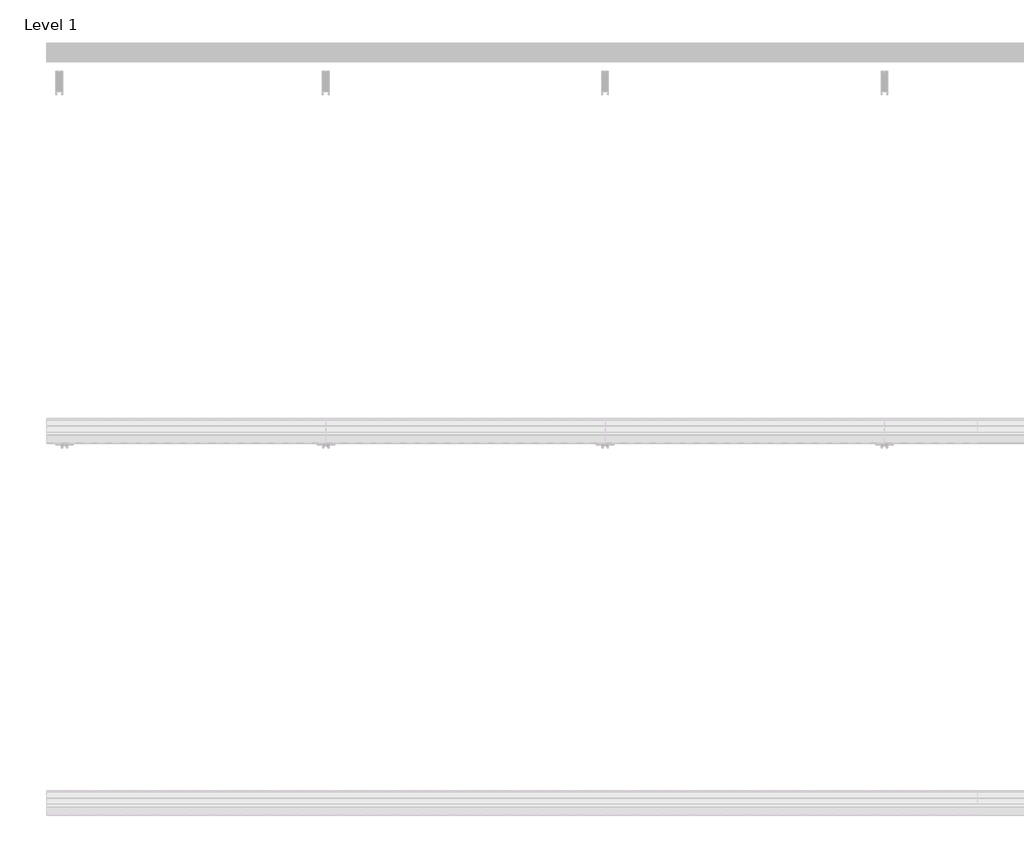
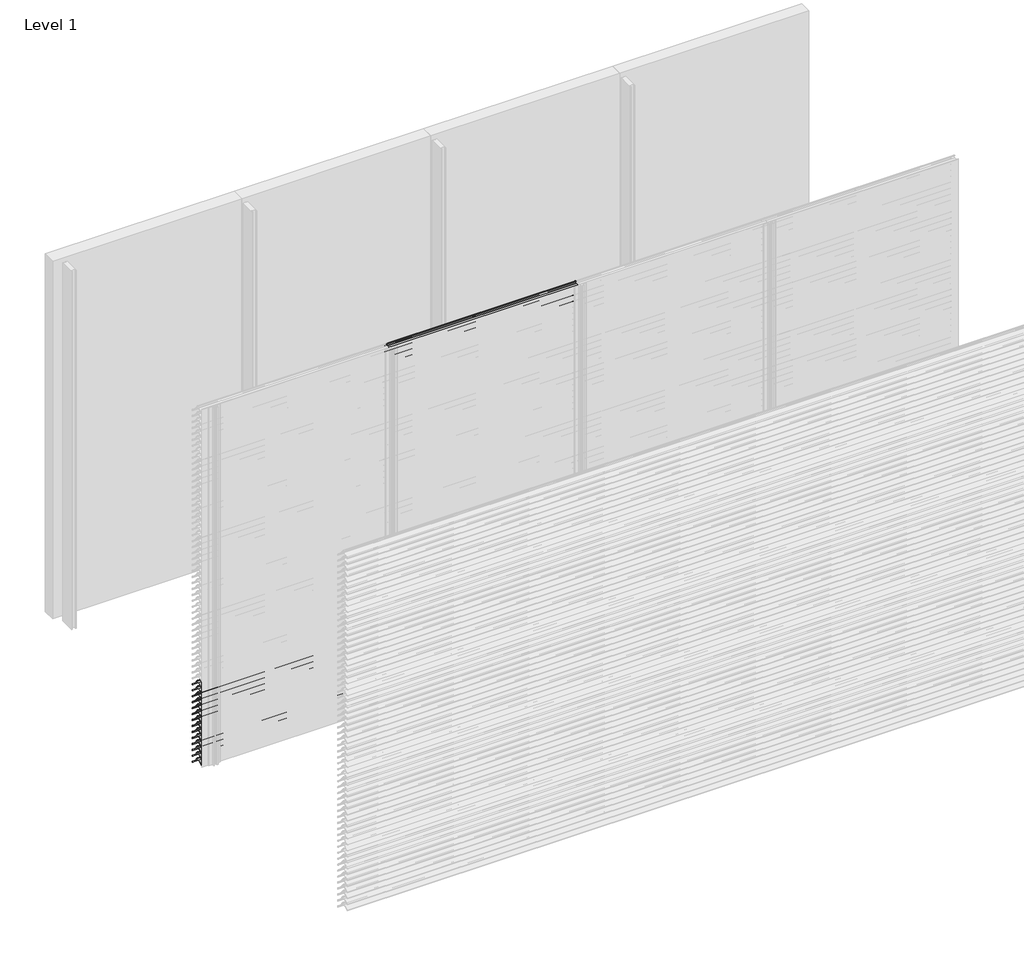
# One storey, part 9 of 173: 18 proxies.
"""IFC4 building model written with IfcOpenShell, lengths in millimetres."""

from ifc_helpers import new_model, si_unit, point, frame, frame_2d, origin, place, context, project, spatial, polyline, circle_curve, trimmed, segment, composite_curve, outline, extrude, element, save

model = new_model("IFC4")

# Units and contexts
model_context = context("Model", 3, world=origin())
ifc_project = project(units=[si_unit("LENGTHUNIT", "METRE", prefix="MILLI")], contexts=[model_context])

# Site, building, storey
site = spatial("IfcSite", under=ifc_project)
building = spatial("IfcBuilding", under=site)
storey = spatial("IfcBuildingStorey", under=building, Name="Level 1", Elevation=0.0)

# Proxies
placement = place(None, origin())
element("IfcBuildingElementProxy", 1, Name="Wall Sweeps", at=placement, inside=storey, context=model_context, shape_type="SweptSolid", body=[
    extrude(outline(composite_curve([segment(polyline([(-53998.0, 659.1474905), (-53998.0, 661.6227417)]), True, "CONTINUOUS"), segment(trimmed(circle_curve(frame_2d((-53951.2682172, 616.2200208)), 65.1557103), [point((-53998.0, 661.6227417))], [point((-53954.4014323, 681.3003524))], False, "CARTESIAN"), True, "CONTINUOUS"), segment(polyline([(-53954.4014323, 681.3003524), (-53934.8315836, 681.3003524)]), True, "CONTINUOUS"), segment(trimmed(circle_curve(frame_2d((-53732.7329489, 828.5533172)), 250.0545817), [point((-53934.8315836, 681.3003524))], [point((-53941.4452143, 690.8344583))], False, "CARTESIAN"), True, "CONTINUOUS"), segment(trimmed(circle_curve(frame_2d((-53953.2981792, 685.1737835)), 13.1352966), [point((-53941.4452143, 690.8344583))], [point((-53953.8171475, 698.298824))], True, "CARTESIAN"), True, "CONTINUOUS"), segment(polyline([(-53953.8171475, 698.298824), (-53953.8171475, 700.0)]), True, "CONTINUOUS"), segment(trimmed(circle_curve(frame_2d((-53953.2981792, 685.1737835)), 14.8352966), [point((-53953.8171475, 700.0))], [point((-53939.9637661, 691.6760487))], False, "CARTESIAN"), True, "CONTINUOUS"), segment(trimmed(circle_curve(frame_2d((-53732.7329489, 828.5533172)), 248.3545817), [point((-53939.9637661, 691.6760487))], [point((-53873.8787895, 624.2059416))], True, "CARTESIAN"), True, "CONTINUOUS"), segment(trimmed(circle_curve(frame_2d((-53883.8147537, 611.6649442)), 16.0), [point((-53873.8787895, 624.2059416))], [point((-53867.8648347, 610.4))], False, "CARTESIAN"), True, "CONTINUOUS"), segment(polyline([(-53867.8648347, 610.4), (-53869.6712069, 610.4)]), True, "CONTINUOUS"), segment(trimmed(circle_curve(frame_2d((-53883.8147537, 611.6649442)), 14.2), [point((-53869.6712069, 610.4))], [point((-53874.9518628, 622.7594998))], True, "CARTESIAN"), True, "CONTINUOUS"), segment(trimmed(circle_curve(frame_2d((-53732.7329489, 828.5533172)), 250.1545817), [point((-53874.9518628, 622.7594998))], [point((-53933.7064024, 679.6003524))], False, "CARTESIAN"), True, "CONTINUOUS"), segment(polyline([(-53933.7064024, 679.6003524), (-53954.3602632, 679.6003524)]), True, "CONTINUOUS"), segment(trimmed(circle_curve(frame_2d((-53951.2682172, 616.2200208)), 63.4557103), [point((-53954.3602632, 679.6003524))], [point((-53998.0, 659.1474905))], True, "CARTESIAN"), True, "CONTINUOUS")], self_intersect=False)), frame((0.0, 0.0, 0.0), z_axis=(1.0, 0.0, 0.0), x_axis=(0.0, 1.0, 0.0)), (0.0, 0.0, 1.0), 1500.0),
])
element("IfcBuildingElementProxy", 2, Name="Wall Sweeps", at=placement, inside=storey, context=model_context, shape_type="SweptSolid", body=[
    extrude(outline(composite_curve([segment(polyline([(-53998.0, 609.1474905), (-53998.0, 611.6227417)]), True, "CONTINUOUS"), segment(trimmed(circle_curve(frame_2d((-53951.2682172, 566.2200208)), 65.1557103), [point((-53998.0, 611.6227417))], [point((-53954.4014323, 631.3003524))], False, "CARTESIAN"), True, "CONTINUOUS"), segment(polyline([(-53954.4014323, 631.3003524), (-53934.8315836, 631.3003524)]), True, "CONTINUOUS"), segment(trimmed(circle_curve(frame_2d((-53732.7329489, 778.5533172)), 250.0545817), [point((-53934.8315836, 631.3003524))], [point((-53941.4452143, 640.8344583))], False, "CARTESIAN"), True, "CONTINUOUS"), segment(trimmed(circle_curve(frame_2d((-53953.2981792, 635.1737835)), 13.1352966), [point((-53941.4452143, 640.8344583))], [point((-53953.8171475, 648.298824))], True, "CARTESIAN"), True, "CONTINUOUS"), segment(polyline([(-53953.8171475, 648.298824), (-53953.8171475, 650.0)]), True, "CONTINUOUS"), segment(trimmed(circle_curve(frame_2d((-53953.2981792, 635.1737835)), 14.8352966), [point((-53953.8171475, 650.0))], [point((-53939.9637661, 641.6760487))], False, "CARTESIAN"), True, "CONTINUOUS"), segment(trimmed(circle_curve(frame_2d((-53732.7329489, 778.5533172)), 248.3545817), [point((-53939.9637661, 641.6760487))], [point((-53873.8787895, 574.2059416))], True, "CARTESIAN"), True, "CONTINUOUS"), segment(trimmed(circle_curve(frame_2d((-53883.8147537, 561.6649442)), 16.0), [point((-53873.8787895, 574.2059416))], [point((-53867.8648347, 560.4))], False, "CARTESIAN"), True, "CONTINUOUS"), segment(polyline([(-53867.8648347, 560.4), (-53869.6712069, 560.4)]), True, "CONTINUOUS"), segment(trimmed(circle_curve(frame_2d((-53883.8147537, 561.6649442)), 14.2), [point((-53869.6712069, 560.4))], [point((-53874.9518628, 572.7594998))], True, "CARTESIAN"), True, "CONTINUOUS"), segment(trimmed(circle_curve(frame_2d((-53732.7329489, 778.5533172)), 250.1545817), [point((-53874.9518628, 572.7594998))], [point((-53933.7064024, 629.6003524))], False, "CARTESIAN"), True, "CONTINUOUS"), segment(polyline([(-53933.7064024, 629.6003524), (-53954.3602632, 629.6003524)]), True, "CONTINUOUS"), segment(trimmed(circle_curve(frame_2d((-53951.2682172, 566.2200208)), 63.4557103), [point((-53954.3602632, 629.6003524))], [point((-53998.0, 609.1474905))], True, "CARTESIAN"), True, "CONTINUOUS")], self_intersect=False)), frame((0.0, 0.0, 0.0), z_axis=(1.0, 0.0, 0.0), x_axis=(0.0, 1.0, 0.0)), (0.0, 0.0, 1.0), 1500.0),
])
element("IfcBuildingElementProxy", 3, Name="Wall Sweeps", at=placement, inside=storey, context=model_context, shape_type="SweptSolid", body=[
    extrude(outline(composite_curve([segment(polyline([(-53998.0, 559.1474905), (-53998.0, 561.6227417)]), True, "CONTINUOUS"), segment(trimmed(circle_curve(frame_2d((-53951.2682172, 516.2200208)), 65.1557103), [point((-53998.0, 561.6227417))], [point((-53954.4014323, 581.3003524))], False, "CARTESIAN"), True, "CONTINUOUS"), segment(polyline([(-53954.4014323, 581.3003524), (-53934.8315836, 581.3003524)]), True, "CONTINUOUS"), segment(trimmed(circle_curve(frame_2d((-53732.7329489, 728.5533172)), 250.0545817), [point((-53934.8315836, 581.3003524))], [point((-53941.4452143, 590.8344583))], False, "CARTESIAN"), True, "CONTINUOUS"), segment(trimmed(circle_curve(frame_2d((-53953.2981792, 585.1737835)), 13.1352966), [point((-53941.4452143, 590.8344583))], [point((-53953.8171475, 598.298824))], True, "CARTESIAN"), True, "CONTINUOUS"), segment(polyline([(-53953.8171475, 598.298824), (-53953.8171475, 600.0)]), True, "CONTINUOUS"), segment(trimmed(circle_curve(frame_2d((-53953.2981792, 585.1737835)), 14.8352966), [point((-53953.8171475, 600.0))], [point((-53939.9637661, 591.6760487))], False, "CARTESIAN"), True, "CONTINUOUS"), segment(trimmed(circle_curve(frame_2d((-53732.7329489, 728.5533172)), 248.3545817), [point((-53939.9637661, 591.6760487))], [point((-53873.8787895, 524.2059416))], True, "CARTESIAN"), True, "CONTINUOUS"), segment(trimmed(circle_curve(frame_2d((-53883.8147537, 511.6649442)), 16.0), [point((-53873.8787895, 524.2059416))], [point((-53867.8648347, 510.4))], False, "CARTESIAN"), True, "CONTINUOUS"), segment(polyline([(-53867.8648347, 510.4), (-53869.6712069, 510.4)]), True, "CONTINUOUS"), segment(trimmed(circle_curve(frame_2d((-53883.8147537, 511.6649442)), 14.2), [point((-53869.6712069, 510.4))], [point((-53874.9518628, 522.7594998))], True, "CARTESIAN"), True, "CONTINUOUS"), segment(trimmed(circle_curve(frame_2d((-53732.7329489, 728.5533172)), 250.1545817), [point((-53874.9518628, 522.7594998))], [point((-53933.7064024, 579.6003524))], False, "CARTESIAN"), True, "CONTINUOUS"), segment(polyline([(-53933.7064024, 579.6003524), (-53954.3602632, 579.6003524)]), True, "CONTINUOUS"), segment(trimmed(circle_curve(frame_2d((-53951.2682172, 516.2200208)), 63.4557103), [point((-53954.3602632, 579.6003524))], [point((-53998.0, 559.1474905))], True, "CARTESIAN"), True, "CONTINUOUS")], self_intersect=False)), frame((0.0, 0.0, 0.0), z_axis=(1.0, 0.0, 0.0), x_axis=(0.0, 1.0, 0.0)), (0.0, 0.0, 1.0), 1500.0),
])
element("IfcBuildingElementProxy", 4, Name="Wall Sweeps", at=placement, inside=storey, context=model_context, shape_type="SweptSolid", body=[
    extrude(outline(composite_curve([segment(polyline([(-53998.0, 509.1474905), (-53998.0, 511.6227417)]), True, "CONTINUOUS"), segment(trimmed(circle_curve(frame_2d((-53951.2682172, 466.2200208)), 65.1557103), [point((-53998.0, 511.6227417))], [point((-53954.4014323, 531.3003524))], False, "CARTESIAN"), True, "CONTINUOUS"), segment(polyline([(-53954.4014323, 531.3003524), (-53934.8315836, 531.3003524)]), True, "CONTINUOUS"), segment(trimmed(circle_curve(frame_2d((-53732.7329489, 678.5533172)), 250.0545817), [point((-53934.8315836, 531.3003524))], [point((-53941.4452143, 540.8344583))], False, "CARTESIAN"), True, "CONTINUOUS"), segment(trimmed(circle_curve(frame_2d((-53953.2981792, 535.1737835)), 13.1352966), [point((-53941.4452143, 540.8344583))], [point((-53953.8171475, 548.298824))], True, "CARTESIAN"), True, "CONTINUOUS"), segment(polyline([(-53953.8171475, 548.298824), (-53953.8171475, 550.0)]), True, "CONTINUOUS"), segment(trimmed(circle_curve(frame_2d((-53953.2981792, 535.1737835)), 14.8352966), [point((-53953.8171475, 550.0))], [point((-53939.9637661, 541.6760487))], False, "CARTESIAN"), True, "CONTINUOUS"), segment(trimmed(circle_curve(frame_2d((-53732.7329489, 678.5533172)), 248.3545817), [point((-53939.9637661, 541.6760487))], [point((-53873.8787895, 474.2059416))], True, "CARTESIAN"), True, "CONTINUOUS"), segment(trimmed(circle_curve(frame_2d((-53883.8147537, 461.6649442)), 16.0), [point((-53873.8787895, 474.2059416))], [point((-53867.8648347, 460.4))], False, "CARTESIAN"), True, "CONTINUOUS"), segment(polyline([(-53867.8648347, 460.4), (-53869.6712069, 460.4)]), True, "CONTINUOUS"), segment(trimmed(circle_curve(frame_2d((-53883.8147537, 461.6649442)), 14.2), [point((-53869.6712069, 460.4))], [point((-53874.9518628, 472.7594998))], True, "CARTESIAN"), True, "CONTINUOUS"), segment(trimmed(circle_curve(frame_2d((-53732.7329489, 678.5533172)), 250.1545817), [point((-53874.9518628, 472.7594998))], [point((-53933.7064024, 529.6003524))], False, "CARTESIAN"), True, "CONTINUOUS"), segment(polyline([(-53933.7064024, 529.6003524), (-53954.3602632, 529.6003524)]), True, "CONTINUOUS"), segment(trimmed(circle_curve(frame_2d((-53951.2682172, 466.2200208)), 63.4557103), [point((-53954.3602632, 529.6003524))], [point((-53998.0, 509.1474905))], True, "CARTESIAN"), True, "CONTINUOUS")], self_intersect=False)), frame((0.0, 0.0, 0.0), z_axis=(1.0, 0.0, 0.0), x_axis=(0.0, 1.0, 0.0)), (0.0, 0.0, 1.0), 1500.0),
])
element("IfcBuildingElementProxy", 5, Name="Wall Sweeps", at=placement, inside=storey, context=model_context, shape_type="SweptSolid", body=[
    extrude(outline(composite_curve([segment(polyline([(-53998.0, 459.1474905), (-53998.0, 461.6227417)]), True, "CONTINUOUS"), segment(trimmed(circle_curve(frame_2d((-53951.2682172, 416.2200208)), 65.1557103), [point((-53998.0, 461.6227417))], [point((-53954.4014323, 481.3003524))], False, "CARTESIAN"), True, "CONTINUOUS"), segment(polyline([(-53954.4014323, 481.3003524), (-53934.8315836, 481.3003524)]), True, "CONTINUOUS"), segment(trimmed(circle_curve(frame_2d((-53732.7329489, 628.5533172)), 250.0545817), [point((-53934.8315836, 481.3003524))], [point((-53941.4452143, 490.8344583))], False, "CARTESIAN"), True, "CONTINUOUS"), segment(trimmed(circle_curve(frame_2d((-53953.2981792, 485.1737835)), 13.1352966), [point((-53941.4452143, 490.8344583))], [point((-53953.8171475, 498.298824))], True, "CARTESIAN"), True, "CONTINUOUS"), segment(polyline([(-53953.8171475, 498.298824), (-53953.8171475, 500.0)]), True, "CONTINUOUS"), segment(trimmed(circle_curve(frame_2d((-53953.2981792, 485.1737835)), 14.8352966), [point((-53953.8171475, 500.0))], [point((-53939.9637661, 491.6760487))], False, "CARTESIAN"), True, "CONTINUOUS"), segment(trimmed(circle_curve(frame_2d((-53732.7329489, 628.5533172)), 248.3545817), [point((-53939.9637661, 491.6760487))], [point((-53873.8787895, 424.2059416))], True, "CARTESIAN"), True, "CONTINUOUS"), segment(trimmed(circle_curve(frame_2d((-53883.8147537, 411.6649442)), 16.0), [point((-53873.8787895, 424.2059416))], [point((-53867.8648347, 410.4))], False, "CARTESIAN"), True, "CONTINUOUS"), segment(polyline([(-53867.8648347, 410.4), (-53869.6712069, 410.4)]), True, "CONTINUOUS"), segment(trimmed(circle_curve(frame_2d((-53883.8147537, 411.6649442)), 14.2), [point((-53869.6712069, 410.4))], [point((-53874.9518628, 422.7594998))], True, "CARTESIAN"), True, "CONTINUOUS"), segment(trimmed(circle_curve(frame_2d((-53732.7329489, 628.5533172)), 250.1545817), [point((-53874.9518628, 422.7594998))], [point((-53933.7064024, 479.6003524))], False, "CARTESIAN"), True, "CONTINUOUS"), segment(polyline([(-53933.7064024, 479.6003524), (-53954.3602632, 479.6003524)]), True, "CONTINUOUS"), segment(trimmed(circle_curve(frame_2d((-53951.2682172, 416.2200208)), 63.4557103), [point((-53954.3602632, 479.6003524))], [point((-53998.0, 459.1474905))], True, "CARTESIAN"), True, "CONTINUOUS")], self_intersect=False)), frame((0.0, 0.0, 0.0), z_axis=(1.0, 0.0, 0.0), x_axis=(0.0, 1.0, 0.0)), (0.0, 0.0, 1.0), 1500.0),
])
element("IfcBuildingElementProxy", 6, Name="Wall Sweeps", at=placement, inside=storey, context=model_context, shape_type="SweptSolid", body=[
    extrude(outline(composite_curve([segment(polyline([(-53998.0, 409.1474905), (-53998.0, 411.6227417)]), True, "CONTINUOUS"), segment(trimmed(circle_curve(frame_2d((-53951.2682172, 366.2200208)), 65.1557103), [point((-53998.0, 411.6227417))], [point((-53954.4014323, 431.3003524))], False, "CARTESIAN"), True, "CONTINUOUS"), segment(polyline([(-53954.4014323, 431.3003524), (-53934.8315836, 431.3003524)]), True, "CONTINUOUS"), segment(trimmed(circle_curve(frame_2d((-53732.7329489, 578.5533172)), 250.0545817), [point((-53934.8315836, 431.3003524))], [point((-53941.4452143, 440.8344583))], False, "CARTESIAN"), True, "CONTINUOUS"), segment(trimmed(circle_curve(frame_2d((-53953.2981792, 435.1737835)), 13.1352966), [point((-53941.4452143, 440.8344583))], [point((-53953.8171475, 448.298824))], True, "CARTESIAN"), True, "CONTINUOUS"), segment(polyline([(-53953.8171475, 448.298824), (-53953.8171475, 450.0)]), True, "CONTINUOUS"), segment(trimmed(circle_curve(frame_2d((-53953.2981792, 435.1737835)), 14.8352966), [point((-53953.8171475, 450.0))], [point((-53939.9637661, 441.6760487))], False, "CARTESIAN"), True, "CONTINUOUS"), segment(trimmed(circle_curve(frame_2d((-53732.7329489, 578.5533172)), 248.3545817), [point((-53939.9637661, 441.6760487))], [point((-53873.8787895, 374.2059416))], True, "CARTESIAN"), True, "CONTINUOUS"), segment(trimmed(circle_curve(frame_2d((-53883.8147537, 361.6649442)), 16.0), [point((-53873.8787895, 374.2059416))], [point((-53867.8648347, 360.4))], False, "CARTESIAN"), True, "CONTINUOUS"), segment(polyline([(-53867.8648347, 360.4), (-53869.6712069, 360.4)]), True, "CONTINUOUS"), segment(trimmed(circle_curve(frame_2d((-53883.8147537, 361.6649442)), 14.2), [point((-53869.6712069, 360.4))], [point((-53874.9518628, 372.7594998))], True, "CARTESIAN"), True, "CONTINUOUS"), segment(trimmed(circle_curve(frame_2d((-53732.7329489, 578.5533172)), 250.1545817), [point((-53874.9518628, 372.7594998))], [point((-53933.7064024, 429.6003524))], False, "CARTESIAN"), True, "CONTINUOUS"), segment(polyline([(-53933.7064024, 429.6003524), (-53954.3602632, 429.6003524)]), True, "CONTINUOUS"), segment(trimmed(circle_curve(frame_2d((-53951.2682172, 366.2200208)), 63.4557103), [point((-53954.3602632, 429.6003524))], [point((-53998.0, 409.1474905))], True, "CARTESIAN"), True, "CONTINUOUS")], self_intersect=False)), frame((0.0, 0.0, 0.0), z_axis=(1.0, 0.0, 0.0), x_axis=(0.0, 1.0, 0.0)), (0.0, 0.0, 1.0), 1500.0),
])
element("IfcBuildingElementProxy", 7, Name="Wall Sweeps", at=placement, inside=storey, context=model_context, shape_type="SweptSolid", body=[
    extrude(outline(composite_curve([segment(polyline([(-53998.0, 359.1474905), (-53998.0, 361.6227417)]), True, "CONTINUOUS"), segment(trimmed(circle_curve(frame_2d((-53951.2682172, 316.2200208)), 65.1557103), [point((-53998.0, 361.6227417))], [point((-53954.4014323, 381.3003524))], False, "CARTESIAN"), True, "CONTINUOUS"), segment(polyline([(-53954.4014323, 381.3003524), (-53934.8315836, 381.3003524)]), True, "CONTINUOUS"), segment(trimmed(circle_curve(frame_2d((-53732.7329489, 528.5533172)), 250.0545817), [point((-53934.8315836, 381.3003524))], [point((-53941.4452143, 390.8344583))], False, "CARTESIAN"), True, "CONTINUOUS"), segment(trimmed(circle_curve(frame_2d((-53953.2981792, 385.1737835)), 13.1352966), [point((-53941.4452143, 390.8344583))], [point((-53953.8171475, 398.298824))], True, "CARTESIAN"), True, "CONTINUOUS"), segment(polyline([(-53953.8171475, 398.298824), (-53953.8171475, 400.0)]), True, "CONTINUOUS"), segment(trimmed(circle_curve(frame_2d((-53953.2981792, 385.1737835)), 14.8352966), [point((-53953.8171475, 400.0))], [point((-53939.9637661, 391.6760487))], False, "CARTESIAN"), True, "CONTINUOUS"), segment(trimmed(circle_curve(frame_2d((-53732.7329489, 528.5533172)), 248.3545817), [point((-53939.9637661, 391.6760487))], [point((-53873.8787895, 324.2059416))], True, "CARTESIAN"), True, "CONTINUOUS"), segment(trimmed(circle_curve(frame_2d((-53883.8147537, 311.6649442)), 16.0), [point((-53873.8787895, 324.2059416))], [point((-53867.8648347, 310.4))], False, "CARTESIAN"), True, "CONTINUOUS"), segment(polyline([(-53867.8648347, 310.4), (-53869.6712069, 310.4)]), True, "CONTINUOUS"), segment(trimmed(circle_curve(frame_2d((-53883.8147537, 311.6649442)), 14.2), [point((-53869.6712069, 310.4))], [point((-53874.9518628, 322.7594998))], True, "CARTESIAN"), True, "CONTINUOUS"), segment(trimmed(circle_curve(frame_2d((-53732.7329489, 528.5533172)), 250.1545817), [point((-53874.9518628, 322.7594998))], [point((-53933.7064024, 379.6003524))], False, "CARTESIAN"), True, "CONTINUOUS"), segment(polyline([(-53933.7064024, 379.6003524), (-53954.3602632, 379.6003524)]), True, "CONTINUOUS"), segment(trimmed(circle_curve(frame_2d((-53951.2682172, 316.2200208)), 63.4557103), [point((-53954.3602632, 379.6003524))], [point((-53998.0, 359.1474905))], True, "CARTESIAN"), True, "CONTINUOUS")], self_intersect=False)), frame((0.0, 0.0, 0.0), z_axis=(1.0, 0.0, 0.0), x_axis=(0.0, 1.0, 0.0)), (0.0, 0.0, 1.0), 1500.0),
])
element("IfcBuildingElementProxy", 8, Name="Wall Sweeps", at=placement, inside=storey, context=model_context, shape_type="SweptSolid", body=[
    extrude(outline(composite_curve([segment(polyline([(-53998.0, 309.1474905), (-53998.0, 311.6227417)]), True, "CONTINUOUS"), segment(trimmed(circle_curve(frame_2d((-53951.2682172, 266.2200208)), 65.1557103), [point((-53998.0, 311.6227417))], [point((-53954.4014323, 331.3003524))], False, "CARTESIAN"), True, "CONTINUOUS"), segment(polyline([(-53954.4014323, 331.3003524), (-53934.8315836, 331.3003524)]), True, "CONTINUOUS"), segment(trimmed(circle_curve(frame_2d((-53732.7329489, 478.5533172)), 250.0545817), [point((-53934.8315836, 331.3003524))], [point((-53941.4452143, 340.8344583))], False, "CARTESIAN"), True, "CONTINUOUS"), segment(trimmed(circle_curve(frame_2d((-53953.2981792, 335.1737835)), 13.1352966), [point((-53941.4452143, 340.8344583))], [point((-53953.8171475, 348.298824))], True, "CARTESIAN"), True, "CONTINUOUS"), segment(polyline([(-53953.8171475, 348.298824), (-53953.8171475, 350.0)]), True, "CONTINUOUS"), segment(trimmed(circle_curve(frame_2d((-53953.2981792, 335.1737835)), 14.8352966), [point((-53953.8171475, 350.0))], [point((-53939.9637661, 341.6760487))], False, "CARTESIAN"), True, "CONTINUOUS"), segment(trimmed(circle_curve(frame_2d((-53732.7329489, 478.5533172)), 248.3545817), [point((-53939.9637661, 341.6760487))], [point((-53873.8787895, 274.2059416))], True, "CARTESIAN"), True, "CONTINUOUS"), segment(trimmed(circle_curve(frame_2d((-53883.8147537, 261.6649442)), 16.0), [point((-53873.8787895, 274.2059416))], [point((-53867.8648347, 260.4))], False, "CARTESIAN"), True, "CONTINUOUS"), segment(polyline([(-53867.8648347, 260.4), (-53869.6712069, 260.4)]), True, "CONTINUOUS"), segment(trimmed(circle_curve(frame_2d((-53883.8147537, 261.6649442)), 14.2), [point((-53869.6712069, 260.4))], [point((-53874.9518628, 272.7594998))], True, "CARTESIAN"), True, "CONTINUOUS"), segment(trimmed(circle_curve(frame_2d((-53732.7329489, 478.5533172)), 250.1545817), [point((-53874.9518628, 272.7594998))], [point((-53933.7064024, 329.6003524))], False, "CARTESIAN"), True, "CONTINUOUS"), segment(polyline([(-53933.7064024, 329.6003524), (-53954.3602632, 329.6003524)]), True, "CONTINUOUS"), segment(trimmed(circle_curve(frame_2d((-53951.2682172, 266.2200208)), 63.4557103), [point((-53954.3602632, 329.6003524))], [point((-53998.0, 309.1474905))], True, "CARTESIAN"), True, "CONTINUOUS")], self_intersect=False)), frame((0.0, 0.0, 0.0), z_axis=(1.0, 0.0, 0.0), x_axis=(0.0, 1.0, 0.0)), (0.0, 0.0, 1.0), 1500.0),
])
element("IfcBuildingElementProxy", 9, Name="Wall Sweeps", at=placement, inside=storey, context=model_context, shape_type="SweptSolid", body=[
    extrude(outline(composite_curve([segment(polyline([(-53998.0, 259.1474905), (-53998.0, 261.6227417)]), True, "CONTINUOUS"), segment(trimmed(circle_curve(frame_2d((-53951.2682172, 216.2200208)), 65.1557103), [point((-53998.0, 261.6227417))], [point((-53954.4014323, 281.3003524))], False, "CARTESIAN"), True, "CONTINUOUS"), segment(polyline([(-53954.4014323, 281.3003524), (-53934.8315836, 281.3003524)]), True, "CONTINUOUS"), segment(trimmed(circle_curve(frame_2d((-53732.7329489, 428.5533172)), 250.0545817), [point((-53934.8315836, 281.3003524))], [point((-53941.4452143, 290.8344583))], False, "CARTESIAN"), True, "CONTINUOUS"), segment(trimmed(circle_curve(frame_2d((-53953.2981792, 285.1737835)), 13.1352966), [point((-53941.4452143, 290.8344583))], [point((-53953.8171475, 298.298824))], True, "CARTESIAN"), True, "CONTINUOUS"), segment(polyline([(-53953.8171475, 298.298824), (-53953.8171475, 300.0)]), True, "CONTINUOUS"), segment(trimmed(circle_curve(frame_2d((-53953.2981792, 285.1737835)), 14.8352966), [point((-53953.8171475, 300.0))], [point((-53939.9637661, 291.6760487))], False, "CARTESIAN"), True, "CONTINUOUS"), segment(trimmed(circle_curve(frame_2d((-53732.7329489, 428.5533172)), 248.3545817), [point((-53939.9637661, 291.6760487))], [point((-53873.8787895, 224.2059416))], True, "CARTESIAN"), True, "CONTINUOUS"), segment(trimmed(circle_curve(frame_2d((-53883.8147537, 211.6649442)), 16.0), [point((-53873.8787895, 224.2059416))], [point((-53867.8648347, 210.4))], False, "CARTESIAN"), True, "CONTINUOUS"), segment(polyline([(-53867.8648347, 210.4), (-53869.6712069, 210.4)]), True, "CONTINUOUS"), segment(trimmed(circle_curve(frame_2d((-53883.8147537, 211.6649442)), 14.2), [point((-53869.6712069, 210.4))], [point((-53874.9518628, 222.7594998))], True, "CARTESIAN"), True, "CONTINUOUS"), segment(trimmed(circle_curve(frame_2d((-53732.7329489, 428.5533172)), 250.1545817), [point((-53874.9518628, 222.7594998))], [point((-53933.7064024, 279.6003524))], False, "CARTESIAN"), True, "CONTINUOUS"), segment(polyline([(-53933.7064024, 279.6003524), (-53954.3602632, 279.6003524)]), True, "CONTINUOUS"), segment(trimmed(circle_curve(frame_2d((-53951.2682172, 216.2200208)), 63.4557103), [point((-53954.3602632, 279.6003524))], [point((-53998.0, 259.1474905))], True, "CARTESIAN"), True, "CONTINUOUS")], self_intersect=False)), frame((0.0, 0.0, 0.0), z_axis=(1.0, 0.0, 0.0), x_axis=(0.0, 1.0, 0.0)), (0.0, 0.0, 1.0), 1500.0),
])
element("IfcBuildingElementProxy", 10, Name="Wall Sweeps", at=placement, inside=storey, context=model_context, shape_type="SweptSolid", body=[
    extrude(outline(composite_curve([segment(polyline([(-53998.0, 209.1474905), (-53998.0, 211.6227417)]), True, "CONTINUOUS"), segment(trimmed(circle_curve(frame_2d((-53951.2682172, 166.2200208)), 65.1557103), [point((-53998.0, 211.6227417))], [point((-53954.4014323, 231.3003524))], False, "CARTESIAN"), True, "CONTINUOUS"), segment(polyline([(-53954.4014323, 231.3003524), (-53934.8315836, 231.3003524)]), True, "CONTINUOUS"), segment(trimmed(circle_curve(frame_2d((-53732.7329489, 378.5533172)), 250.0545817), [point((-53934.8315836, 231.3003524))], [point((-53941.4452143, 240.8344583))], False, "CARTESIAN"), True, "CONTINUOUS"), segment(trimmed(circle_curve(frame_2d((-53953.2981792, 235.1737835)), 13.1352966), [point((-53941.4452143, 240.8344583))], [point((-53953.8171475, 248.298824))], True, "CARTESIAN"), True, "CONTINUOUS"), segment(polyline([(-53953.8171475, 248.298824), (-53953.8171475, 250.0)]), True, "CONTINUOUS"), segment(trimmed(circle_curve(frame_2d((-53953.2981792, 235.1737835)), 14.8352966), [point((-53953.8171475, 250.0))], [point((-53939.9637661, 241.6760487))], False, "CARTESIAN"), True, "CONTINUOUS"), segment(trimmed(circle_curve(frame_2d((-53732.7329489, 378.5533172)), 248.3545817), [point((-53939.9637661, 241.6760487))], [point((-53873.8787895, 174.2059416))], True, "CARTESIAN"), True, "CONTINUOUS"), segment(trimmed(circle_curve(frame_2d((-53883.8147537, 161.6649442)), 16.0), [point((-53873.8787895, 174.2059416))], [point((-53867.8648347, 160.4))], False, "CARTESIAN"), True, "CONTINUOUS"), segment(polyline([(-53867.8648347, 160.4), (-53869.6712069, 160.4)]), True, "CONTINUOUS"), segment(trimmed(circle_curve(frame_2d((-53883.8147537, 161.6649442)), 14.2), [point((-53869.6712069, 160.4))], [point((-53874.9518628, 172.7594998))], True, "CARTESIAN"), True, "CONTINUOUS"), segment(trimmed(circle_curve(frame_2d((-53732.7329489, 378.5533172)), 250.1545817), [point((-53874.9518628, 172.7594998))], [point((-53933.7064024, 229.6003524))], False, "CARTESIAN"), True, "CONTINUOUS"), segment(polyline([(-53933.7064024, 229.6003524), (-53954.3602632, 229.6003524)]), True, "CONTINUOUS"), segment(trimmed(circle_curve(frame_2d((-53951.2682172, 166.2200208)), 63.4557103), [point((-53954.3602632, 229.6003524))], [point((-53998.0, 209.1474905))], True, "CARTESIAN"), True, "CONTINUOUS")], self_intersect=False)), frame((0.0, 0.0, 0.0), z_axis=(1.0, 0.0, 0.0), x_axis=(0.0, 1.0, 0.0)), (0.0, 0.0, 1.0), 1500.0),
])
element("IfcBuildingElementProxy", 11, Name="Wall Sweeps", at=placement, inside=storey, context=model_context, shape_type="SweptSolid", body=[
    extrude(outline(composite_curve([segment(polyline([(-53998.0, 159.1474905), (-53998.0, 161.6227417)]), True, "CONTINUOUS"), segment(trimmed(circle_curve(frame_2d((-53951.2682172, 116.2200208)), 65.1557103), [point((-53998.0, 161.6227417))], [point((-53954.4014323, 181.3003524))], False, "CARTESIAN"), True, "CONTINUOUS"), segment(polyline([(-53954.4014323, 181.3003524), (-53934.8315836, 181.3003524)]), True, "CONTINUOUS"), segment(trimmed(circle_curve(frame_2d((-53732.7329489, 328.5533172)), 250.0545817), [point((-53934.8315836, 181.3003524))], [point((-53941.4452143, 190.8344583))], False, "CARTESIAN"), True, "CONTINUOUS"), segment(trimmed(circle_curve(frame_2d((-53953.2981792, 185.1737835)), 13.1352966), [point((-53941.4452143, 190.8344583))], [point((-53953.8171475, 198.298824))], True, "CARTESIAN"), True, "CONTINUOUS"), segment(polyline([(-53953.8171475, 198.298824), (-53953.8171475, 200.0)]), True, "CONTINUOUS"), segment(trimmed(circle_curve(frame_2d((-53953.2981792, 185.1737835)), 14.8352966), [point((-53953.8171475, 200.0))], [point((-53939.9637661, 191.6760487))], False, "CARTESIAN"), True, "CONTINUOUS"), segment(trimmed(circle_curve(frame_2d((-53732.7329489, 328.5533172)), 248.3545817), [point((-53939.9637661, 191.6760487))], [point((-53873.8787895, 124.2059416))], True, "CARTESIAN"), True, "CONTINUOUS"), segment(trimmed(circle_curve(frame_2d((-53883.8147537, 111.6649442)), 16.0), [point((-53873.8787895, 124.2059416))], [point((-53867.8648347, 110.4))], False, "CARTESIAN"), True, "CONTINUOUS"), segment(polyline([(-53867.8648347, 110.4), (-53869.6712069, 110.4)]), True, "CONTINUOUS"), segment(trimmed(circle_curve(frame_2d((-53883.8147537, 111.6649442)), 14.2), [point((-53869.6712069, 110.4))], [point((-53874.9518628, 122.7594998))], True, "CARTESIAN"), True, "CONTINUOUS"), segment(trimmed(circle_curve(frame_2d((-53732.7329489, 328.5533172)), 250.1545817), [point((-53874.9518628, 122.7594998))], [point((-53933.7064024, 179.6003524))], False, "CARTESIAN"), True, "CONTINUOUS"), segment(polyline([(-53933.7064024, 179.6003524), (-53954.3602632, 179.6003524)]), True, "CONTINUOUS"), segment(trimmed(circle_curve(frame_2d((-53951.2682172, 116.2200208)), 63.4557103), [point((-53954.3602632, 179.6003524))], [point((-53998.0, 159.1474905))], True, "CARTESIAN"), True, "CONTINUOUS")], self_intersect=False)), frame((0.0, 0.0, 0.0), z_axis=(1.0, 0.0, 0.0), x_axis=(0.0, 1.0, 0.0)), (0.0, 0.0, 1.0), 1500.0),
])
element("IfcBuildingElementProxy", 12, Name="Wall Sweeps", at=placement, inside=storey, context=model_context, shape_type="SweptSolid", body=[
    extrude(outline(composite_curve([segment(polyline([(-53998.0, 109.1474905), (-53998.0, 111.6227417)]), True, "CONTINUOUS"), segment(trimmed(circle_curve(frame_2d((-53951.2682172, 66.2200208)), 65.1557103), [point((-53998.0, 111.6227417))], [point((-53954.4014323, 131.3003524))], False, "CARTESIAN"), True, "CONTINUOUS"), segment(polyline([(-53954.4014323, 131.3003524), (-53934.8315836, 131.3003524)]), True, "CONTINUOUS"), segment(trimmed(circle_curve(frame_2d((-53732.7329489, 278.5533172)), 250.0545817), [point((-53934.8315836, 131.3003524))], [point((-53941.4452143, 140.8344583))], False, "CARTESIAN"), True, "CONTINUOUS"), segment(trimmed(circle_curve(frame_2d((-53953.2981792, 135.1737835)), 13.1352966), [point((-53941.4452143, 140.8344583))], [point((-53953.8171475, 148.298824))], True, "CARTESIAN"), True, "CONTINUOUS"), segment(polyline([(-53953.8171475, 148.298824), (-53953.8171475, 150.0)]), True, "CONTINUOUS"), segment(trimmed(circle_curve(frame_2d((-53953.2981792, 135.1737835)), 14.8352966), [point((-53953.8171475, 150.0))], [point((-53939.9637661, 141.6760487))], False, "CARTESIAN"), True, "CONTINUOUS"), segment(trimmed(circle_curve(frame_2d((-53732.7329489, 278.5533172)), 248.3545817), [point((-53939.9637661, 141.6760487))], [point((-53873.8787895, 74.2059416))], True, "CARTESIAN"), True, "CONTINUOUS"), segment(trimmed(circle_curve(frame_2d((-53883.8147537, 61.6649442)), 16.0), [point((-53873.8787895, 74.2059416))], [point((-53867.8648347, 60.4))], False, "CARTESIAN"), True, "CONTINUOUS"), segment(polyline([(-53867.8648347, 60.4), (-53869.6712069, 60.4)]), True, "CONTINUOUS"), segment(trimmed(circle_curve(frame_2d((-53883.8147537, 61.6649442)), 14.2), [point((-53869.6712069, 60.4))], [point((-53874.9518628, 72.7594998))], True, "CARTESIAN"), True, "CONTINUOUS"), segment(trimmed(circle_curve(frame_2d((-53732.7329489, 278.5533172)), 250.1545817), [point((-53874.9518628, 72.7594998))], [point((-53933.7064024, 129.6003524))], False, "CARTESIAN"), True, "CONTINUOUS"), segment(polyline([(-53933.7064024, 129.6003524), (-53954.3602632, 129.6003524)]), True, "CONTINUOUS"), segment(trimmed(circle_curve(frame_2d((-53951.2682172, 66.2200208)), 63.4557103), [point((-53954.3602632, 129.6003524))], [point((-53998.0, 109.1474905))], True, "CARTESIAN"), True, "CONTINUOUS")], self_intersect=False)), frame((0.0, 0.0, 0.0), z_axis=(1.0, 0.0, 0.0), x_axis=(0.0, 1.0, 0.0)), (0.0, 0.0, 1.0), 1500.0),
])
element("IfcBuildingElementProxy", 13, Name="Wall Sweeps", at=placement, inside=storey, context=model_context, shape_type="SweptSolid", body=[
    extrude(outline(composite_curve([segment(polyline([(-53998.0, 59.1474905), (-53998.0, 61.6227417)]), True, "CONTINUOUS"), segment(trimmed(circle_curve(frame_2d((-53951.2682172, 16.2200208)), 65.1557103), [point((-53998.0, 61.6227417))], [point((-53954.4014323, 81.3003524))], False, "CARTESIAN"), True, "CONTINUOUS"), segment(polyline([(-53954.4014323, 81.3003524), (-53934.8315836, 81.3003524)]), True, "CONTINUOUS"), segment(trimmed(circle_curve(frame_2d((-53732.7329489, 228.5533172)), 250.0545817), [point((-53934.8315836, 81.3003524))], [point((-53941.4452143, 90.8344583))], False, "CARTESIAN"), True, "CONTINUOUS"), segment(trimmed(circle_curve(frame_2d((-53953.2981792, 85.1737835)), 13.1352966), [point((-53941.4452143, 90.8344583))], [point((-53953.8171475, 98.298824))], True, "CARTESIAN"), True, "CONTINUOUS"), segment(polyline([(-53953.8171475, 98.298824), (-53953.8171475, 100.0)]), True, "CONTINUOUS"), segment(trimmed(circle_curve(frame_2d((-53953.2981792, 85.1737835)), 14.8352966), [point((-53953.8171475, 100.0))], [point((-53939.9637661, 91.6760487))], False, "CARTESIAN"), True, "CONTINUOUS"), segment(trimmed(circle_curve(frame_2d((-53732.7329489, 228.5533172)), 248.3545817), [point((-53939.9637661, 91.6760487))], [point((-53873.8787895, 24.2059416))], True, "CARTESIAN"), True, "CONTINUOUS"), segment(trimmed(circle_curve(frame_2d((-53883.8147537, 11.6649442)), 16.0), [point((-53873.8787895, 24.2059416))], [point((-53867.8648347, 10.4))], False, "CARTESIAN"), True, "CONTINUOUS"), segment(polyline([(-53867.8648347, 10.4), (-53869.6712069, 10.4)]), True, "CONTINUOUS"), segment(trimmed(circle_curve(frame_2d((-53883.8147537, 11.6649442)), 14.2), [point((-53869.6712069, 10.4))], [point((-53874.9518628, 22.7594998))], True, "CARTESIAN"), True, "CONTINUOUS"), segment(trimmed(circle_curve(frame_2d((-53732.7329489, 228.5533172)), 250.1545817), [point((-53874.9518628, 22.7594998))], [point((-53933.7064024, 79.6003524))], False, "CARTESIAN"), True, "CONTINUOUS"), segment(polyline([(-53933.7064024, 79.6003524), (-53954.3602632, 79.6003524)]), True, "CONTINUOUS"), segment(trimmed(circle_curve(frame_2d((-53951.2682172, 16.2200208)), 63.4557103), [point((-53954.3602632, 79.6003524))], [point((-53998.0, 59.1474905))], True, "CARTESIAN"), True, "CONTINUOUS")], self_intersect=False)), frame((0.0, 0.0, 0.0), z_axis=(1.0, 0.0, 0.0), x_axis=(0.0, 1.0, 0.0)), (0.0, 0.0, 1.0), 1500.0),
])
element("IfcBuildingElementProxy", 14, Name="Wall Sweeps", at=placement, inside=storey, context=model_context, shape_type="SweptSolid", body=[
    extrude(outline(composite_curve([segment(polyline([(-53998.0, 9.1474905), (-53998.0, 11.6227417)]), True, "CONTINUOUS"), segment(trimmed(circle_curve(frame_2d((-53951.2682172, -33.7799792)), 65.1557103), [point((-53998.0, 11.6227417))], [point((-53954.4014323, 31.3003524))], False, "CARTESIAN"), True, "CONTINUOUS"), segment(polyline([(-53954.4014323, 31.3003524), (-53934.8315836, 31.3003524)]), True, "CONTINUOUS"), segment(trimmed(circle_curve(frame_2d((-53732.7329489, 178.5533172)), 250.0545817), [point((-53934.8315836, 31.3003524))], [point((-53941.4452143, 40.8344583))], False, "CARTESIAN"), True, "CONTINUOUS"), segment(trimmed(circle_curve(frame_2d((-53953.2981792, 35.1737835)), 13.1352966), [point((-53941.4452143, 40.8344583))], [point((-53953.8171475, 48.298824))], True, "CARTESIAN"), True, "CONTINUOUS"), segment(polyline([(-53953.8171475, 48.298824), (-53953.8171475, 50.0)]), True, "CONTINUOUS"), segment(trimmed(circle_curve(frame_2d((-53953.2981792, 35.1737835)), 14.8352966), [point((-53953.8171475, 50.0))], [point((-53939.9637661, 41.6760487))], False, "CARTESIAN"), True, "CONTINUOUS"), segment(trimmed(circle_curve(frame_2d((-53732.7329489, 178.5533172)), 248.3545817), [point((-53939.9637661, 41.6760487))], [point((-53873.8787895, -25.7940584))], True, "CARTESIAN"), True, "CONTINUOUS"), segment(trimmed(circle_curve(frame_2d((-53883.8147537, -38.3350558)), 16.0), [point((-53873.8787895, -25.7940584))], [point((-53867.8648347, -39.6))], False, "CARTESIAN"), True, "CONTINUOUS"), segment(polyline([(-53867.8648347, -39.6), (-53869.6712069, -39.6)]), True, "CONTINUOUS"), segment(trimmed(circle_curve(frame_2d((-53883.8147537, -38.3350558)), 14.2), [point((-53869.6712069, -39.6))], [point((-53874.9518628, -27.2405002))], True, "CARTESIAN"), True, "CONTINUOUS"), segment(trimmed(circle_curve(frame_2d((-53732.7329489, 178.5533172)), 250.1545817), [point((-53874.9518628, -27.2405002))], [point((-53933.7064024, 29.6003524))], False, "CARTESIAN"), True, "CONTINUOUS"), segment(polyline([(-53933.7064024, 29.6003524), (-53954.3602632, 29.6003524)]), True, "CONTINUOUS"), segment(trimmed(circle_curve(frame_2d((-53951.2682172, -33.7799792)), 63.4557103), [point((-53954.3602632, 29.6003524))], [point((-53998.0, 9.1474905))], True, "CARTESIAN"), True, "CONTINUOUS")], self_intersect=False)), frame((0.0, 0.0, 0.0), z_axis=(1.0, 0.0, 0.0), x_axis=(0.0, 1.0, 0.0)), (0.0, 0.0, 1.0), 1500.0),
])
element("IfcBuildingElementProxy", 15, Name="Wall Sweeps", at=placement, inside=storey, context=model_context, shape_type="SweptSolid", body=[
    extrude(outline(composite_curve([segment(polyline([(-53998.0, 2959.1474905), (-53998.0, 2961.6227417)]), True, "CONTINUOUS"), segment(trimmed(circle_curve(frame_2d((-53951.2682172, 2916.2200208)), 65.1557103), [point((-53998.0, 2961.6227417))], [point((-53954.4014323, 2981.3003524))], False, "CARTESIAN"), True, "CONTINUOUS"), segment(polyline([(-53954.4014323, 2981.3003524), (-53934.8315836, 2981.3003524)]), True, "CONTINUOUS"), segment(trimmed(circle_curve(frame_2d((-53732.7329489, 3128.5533172)), 250.0545817), [point((-53934.8315836, 2981.3003524))], [point((-53941.4452143, 2990.8344583))], False, "CARTESIAN"), True, "CONTINUOUS"), segment(trimmed(circle_curve(frame_2d((-53953.2981792, 2985.1737835)), 13.1352966), [point((-53941.4452143, 2990.8344583))], [point((-53953.8171475, 2998.298824))], True, "CARTESIAN"), True, "CONTINUOUS"), segment(polyline([(-53953.8171475, 2998.298824), (-53953.8171475, 3000.0)]), True, "CONTINUOUS"), segment(trimmed(circle_curve(frame_2d((-53953.2981792, 2985.1737835)), 14.8352966), [point((-53953.8171475, 3000.0))], [point((-53939.9637661, 2991.6760487))], False, "CARTESIAN"), True, "CONTINUOUS"), segment(trimmed(circle_curve(frame_2d((-53732.7329489, 3128.5533172)), 248.3545817), [point((-53939.9637661, 2991.6760487))], [point((-53873.8787895, 2924.2059416))], True, "CARTESIAN"), True, "CONTINUOUS"), segment(trimmed(circle_curve(frame_2d((-53883.8147537, 2911.6649442)), 16.0), [point((-53873.8787895, 2924.2059416))], [point((-53867.8648347, 2910.4))], False, "CARTESIAN"), True, "CONTINUOUS"), segment(polyline([(-53867.8648347, 2910.4), (-53869.6712069, 2910.4)]), True, "CONTINUOUS"), segment(trimmed(circle_curve(frame_2d((-53883.8147537, 2911.6649442)), 14.2), [point((-53869.6712069, 2910.4))], [point((-53874.9518628, 2922.7594998))], True, "CARTESIAN"), True, "CONTINUOUS"), segment(trimmed(circle_curve(frame_2d((-53732.7329489, 3128.5533172)), 250.1545817), [point((-53874.9518628, 2922.7594998))], [point((-53933.7064024, 2979.6003524))], False, "CARTESIAN"), True, "CONTINUOUS"), segment(polyline([(-53933.7064024, 2979.6003524), (-53954.3602632, 2979.6003524)]), True, "CONTINUOUS"), segment(trimmed(circle_curve(frame_2d((-53951.2682172, 2916.2200208)), 63.4557103), [point((-53954.3602632, 2979.6003524))], [point((-53998.0, 2959.1474905))], True, "CARTESIAN"), True, "CONTINUOUS")], self_intersect=False)), frame((1500.0, 0.0, 0.0), z_axis=(1.0, 0.0, 0.0), x_axis=(0.0, 1.0, 0.0)), (0.0, 0.0, 1.0), 1500.0),
])
element("IfcBuildingElementProxy", 16, Name="Wall Sweeps", at=placement, inside=storey, context=model_context, shape_type="SweptSolid", body=[
    extrude(outline(composite_curve([segment(polyline([(-53998.0, 2909.1474905), (-53998.0, 2911.6227417)]), True, "CONTINUOUS"), segment(trimmed(circle_curve(frame_2d((-53951.2682172, 2866.2200208)), 65.1557103), [point((-53998.0, 2911.6227417))], [point((-53954.4014323, 2931.3003524))], False, "CARTESIAN"), True, "CONTINUOUS"), segment(polyline([(-53954.4014323, 2931.3003524), (-53934.8315836, 2931.3003524)]), True, "CONTINUOUS"), segment(trimmed(circle_curve(frame_2d((-53732.7329489, 3078.5533172)), 250.0545817), [point((-53934.8315836, 2931.3003524))], [point((-53941.4452143, 2940.8344583))], False, "CARTESIAN"), True, "CONTINUOUS"), segment(trimmed(circle_curve(frame_2d((-53953.2981792, 2935.1737835)), 13.1352966), [point((-53941.4452143, 2940.8344583))], [point((-53953.8171475, 2948.298824))], True, "CARTESIAN"), True, "CONTINUOUS"), segment(polyline([(-53953.8171475, 2948.298824), (-53953.8171475, 2950.0)]), True, "CONTINUOUS"), segment(trimmed(circle_curve(frame_2d((-53953.2981792, 2935.1737835)), 14.8352966), [point((-53953.8171475, 2950.0))], [point((-53939.9637661, 2941.6760487))], False, "CARTESIAN"), True, "CONTINUOUS"), segment(trimmed(circle_curve(frame_2d((-53732.7329489, 3078.5533172)), 248.3545817), [point((-53939.9637661, 2941.6760487))], [point((-53873.8787895, 2874.2059416))], True, "CARTESIAN"), True, "CONTINUOUS"), segment(trimmed(circle_curve(frame_2d((-53883.8147537, 2861.6649442)), 16.0), [point((-53873.8787895, 2874.2059416))], [point((-53867.8648347, 2860.4))], False, "CARTESIAN"), True, "CONTINUOUS"), segment(polyline([(-53867.8648347, 2860.4), (-53869.6712069, 2860.4)]), True, "CONTINUOUS"), segment(trimmed(circle_curve(frame_2d((-53883.8147537, 2861.6649442)), 14.2), [point((-53869.6712069, 2860.4))], [point((-53874.9518628, 2872.7594998))], True, "CARTESIAN"), True, "CONTINUOUS"), segment(trimmed(circle_curve(frame_2d((-53732.7329489, 3078.5533172)), 250.1545817), [point((-53874.9518628, 2872.7594998))], [point((-53933.7064024, 2929.6003524))], False, "CARTESIAN"), True, "CONTINUOUS"), segment(polyline([(-53933.7064024, 2929.6003524), (-53954.3602632, 2929.6003524)]), True, "CONTINUOUS"), segment(trimmed(circle_curve(frame_2d((-53951.2682172, 2866.2200208)), 63.4557103), [point((-53954.3602632, 2929.6003524))], [point((-53998.0, 2909.1474905))], True, "CARTESIAN"), True, "CONTINUOUS")], self_intersect=False)), frame((1500.0, 0.0, 0.0), z_axis=(1.0, 0.0, 0.0), x_axis=(0.0, 1.0, 0.0)), (0.0, 0.0, 1.0), 1500.0),
])
element("IfcBuildingElementProxy", 17, Name="Wall Sweeps", at=placement, inside=storey, context=model_context, shape_type="SweptSolid", body=[
    extrude(outline(composite_curve([segment(polyline([(-53998.0, 2859.1474905), (-53998.0, 2861.6227417)]), True, "CONTINUOUS"), segment(trimmed(circle_curve(frame_2d((-53951.2682172, 2816.2200208)), 65.1557103), [point((-53998.0, 2861.6227417))], [point((-53954.4014323, 2881.3003524))], False, "CARTESIAN"), True, "CONTINUOUS"), segment(polyline([(-53954.4014323, 2881.3003524), (-53934.8315836, 2881.3003524)]), True, "CONTINUOUS"), segment(trimmed(circle_curve(frame_2d((-53732.7329489, 3028.5533172)), 250.0545817), [point((-53934.8315836, 2881.3003524))], [point((-53941.4452143, 2890.8344583))], False, "CARTESIAN"), True, "CONTINUOUS"), segment(trimmed(circle_curve(frame_2d((-53953.2981792, 2885.1737835)), 13.1352966), [point((-53941.4452143, 2890.8344583))], [point((-53953.8171475, 2898.298824))], True, "CARTESIAN"), True, "CONTINUOUS"), segment(polyline([(-53953.8171475, 2898.298824), (-53953.8171475, 2900.0)]), True, "CONTINUOUS"), segment(trimmed(circle_curve(frame_2d((-53953.2981792, 2885.1737835)), 14.8352966), [point((-53953.8171475, 2900.0))], [point((-53939.9637661, 2891.6760487))], False, "CARTESIAN"), True, "CONTINUOUS"), segment(trimmed(circle_curve(frame_2d((-53732.7329489, 3028.5533172)), 248.3545817), [point((-53939.9637661, 2891.6760487))], [point((-53873.8787895, 2824.2059416))], True, "CARTESIAN"), True, "CONTINUOUS"), segment(trimmed(circle_curve(frame_2d((-53883.8147537, 2811.6649442)), 16.0), [point((-53873.8787895, 2824.2059416))], [point((-53867.8648347, 2810.4))], False, "CARTESIAN"), True, "CONTINUOUS"), segment(polyline([(-53867.8648347, 2810.4), (-53869.6712069, 2810.4)]), True, "CONTINUOUS"), segment(trimmed(circle_curve(frame_2d((-53883.8147537, 2811.6649442)), 14.2), [point((-53869.6712069, 2810.4))], [point((-53874.9518628, 2822.7594998))], True, "CARTESIAN"), True, "CONTINUOUS"), segment(trimmed(circle_curve(frame_2d((-53732.7329489, 3028.5533172)), 250.1545817), [point((-53874.9518628, 2822.7594998))], [point((-53933.7064024, 2879.6003524))], False, "CARTESIAN"), True, "CONTINUOUS"), segment(polyline([(-53933.7064024, 2879.6003524), (-53954.3602632, 2879.6003524)]), True, "CONTINUOUS"), segment(trimmed(circle_curve(frame_2d((-53951.2682172, 2816.2200208)), 63.4557103), [point((-53954.3602632, 2879.6003524))], [point((-53998.0, 2859.1474905))], True, "CARTESIAN"), True, "CONTINUOUS")], self_intersect=False)), frame((1500.0, 0.0, 0.0), z_axis=(1.0, 0.0, 0.0), x_axis=(0.0, 1.0, 0.0)), (0.0, 0.0, 1.0), 1500.0),
])
element("IfcBuildingElementProxy", 18, Name="Wall Sweeps", at=placement, inside=storey, context=model_context, shape_type="SweptSolid", body=[
    extrude(outline(composite_curve([segment(polyline([(-53998.0, 2809.1474905), (-53998.0, 2811.6227417)]), True, "CONTINUOUS"), segment(trimmed(circle_curve(frame_2d((-53951.2682172, 2766.2200208)), 65.1557103), [point((-53998.0, 2811.6227417))], [point((-53954.4014323, 2831.3003524))], False, "CARTESIAN"), True, "CONTINUOUS"), segment(polyline([(-53954.4014323, 2831.3003524), (-53934.8315836, 2831.3003524)]), True, "CONTINUOUS"), segment(trimmed(circle_curve(frame_2d((-53732.7329489, 2978.5533172)), 250.0545817), [point((-53934.8315836, 2831.3003524))], [point((-53941.4452143, 2840.8344583))], False, "CARTESIAN"), True, "CONTINUOUS"), segment(trimmed(circle_curve(frame_2d((-53953.2981792, 2835.1737835)), 13.1352966), [point((-53941.4452143, 2840.8344583))], [point((-53953.8171475, 2848.298824))], True, "CARTESIAN"), True, "CONTINUOUS"), segment(polyline([(-53953.8171475, 2848.298824), (-53953.8171475, 2850.0)]), True, "CONTINUOUS"), segment(trimmed(circle_curve(frame_2d((-53953.2981792, 2835.1737835)), 14.8352966), [point((-53953.8171475, 2850.0))], [point((-53939.9637661, 2841.6760487))], False, "CARTESIAN"), True, "CONTINUOUS"), segment(trimmed(circle_curve(frame_2d((-53732.7329489, 2978.5533172)), 248.3545817), [point((-53939.9637661, 2841.6760487))], [point((-53873.8787895, 2774.2059416))], True, "CARTESIAN"), True, "CONTINUOUS"), segment(trimmed(circle_curve(frame_2d((-53883.8147537, 2761.6649442)), 16.0), [point((-53873.8787895, 2774.2059416))], [point((-53867.8648347, 2760.4))], False, "CARTESIAN"), True, "CONTINUOUS"), segment(polyline([(-53867.8648347, 2760.4), (-53869.6712069, 2760.4)]), True, "CONTINUOUS"), segment(trimmed(circle_curve(frame_2d((-53883.8147537, 2761.6649442)), 14.2), [point((-53869.6712069, 2760.4))], [point((-53874.9518628, 2772.7594998))], True, "CARTESIAN"), True, "CONTINUOUS"), segment(trimmed(circle_curve(frame_2d((-53732.7329489, 2978.5533172)), 250.1545817), [point((-53874.9518628, 2772.7594998))], [point((-53933.7064024, 2829.6003524))], False, "CARTESIAN"), True, "CONTINUOUS"), segment(polyline([(-53933.7064024, 2829.6003524), (-53954.3602632, 2829.6003524)]), True, "CONTINUOUS"), segment(trimmed(circle_curve(frame_2d((-53951.2682172, 2766.2200208)), 63.4557103), [point((-53954.3602632, 2829.6003524))], [point((-53998.0, 2809.1474905))], True, "CARTESIAN"), True, "CONTINUOUS")], self_intersect=False)), frame((1500.0, 0.0, 0.0), z_axis=(1.0, 0.0, 0.0), x_axis=(0.0, 1.0, 0.0)), (0.0, 0.0, 1.0), 1500.0),
])

save(model, "model.ifc")
